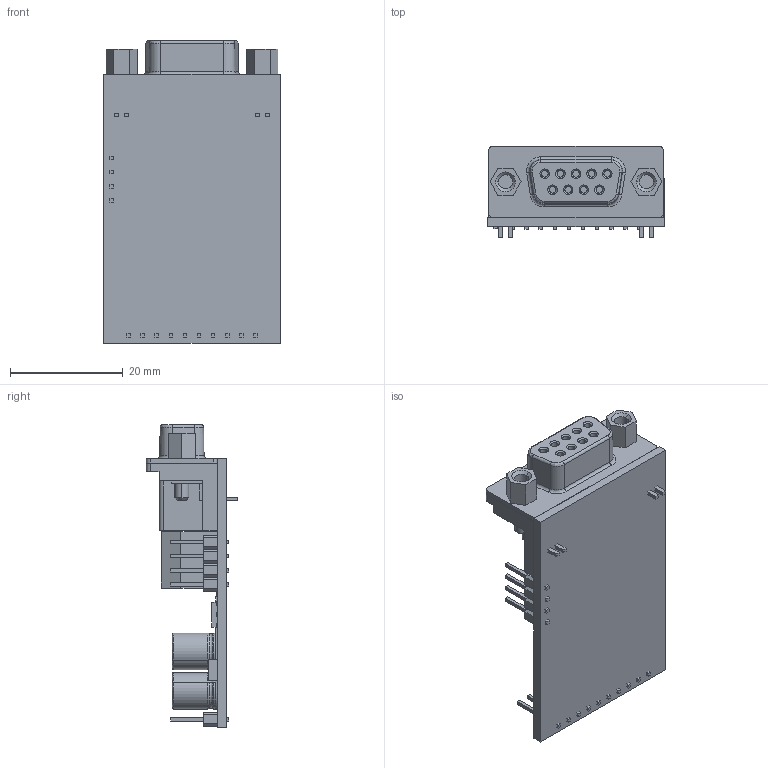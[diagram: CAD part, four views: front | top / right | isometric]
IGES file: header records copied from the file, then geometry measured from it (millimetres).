
Start section: START RECORD GO HERE.
Global section: file name: R217A08.igs; native system: IBM CATIA IGES - CATIA Version 5 Release 19 ; preprocessor: CATIA Version 5 Release 19 ; author: admin; organization: M0815; date: 20251207.151041; units: millimetre
Bounding box: 31.4 x 16.2 x 53.75 mm (x, y, z)
Surface area: 9306.1 mm2 (no closed solid volume)
Topology: 0 solids, 0 shells, 849 faces, 4102 edges, 4102 vertices
Faces by surface type: plane 691, revolution 158
